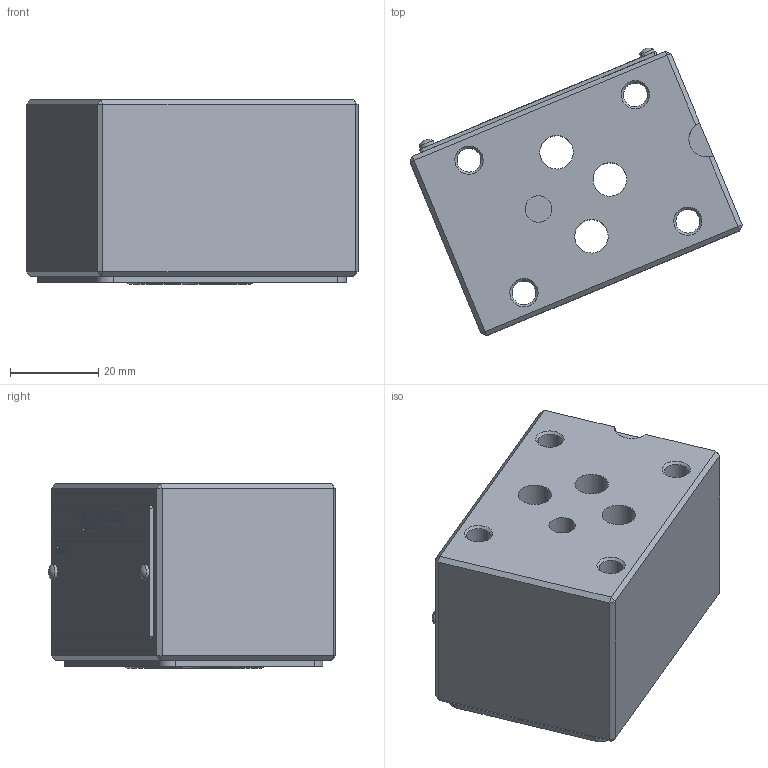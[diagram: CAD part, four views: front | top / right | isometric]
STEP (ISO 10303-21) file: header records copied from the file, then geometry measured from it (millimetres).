
FILE_DESCRIPTION(/* description */ (''),/* implementation_level */ '2;1');
FILE_NAME(/* name */ 'Z1S6D叠加式单向阀.prt.stp',/* time_stamp */ '2022-03-30T19:24:23+08:00',/* author */ (''),/* organization */ (''),/* preprocessor_version */ 'ST-DEVELOPER v16.7',/* originating_system */ 'SIEMENS PLM Software NX 12.0',/* authorisation */ '');
FILE_SCHEMA (('AUTOMOTIVE_DESIGN { 1 0 10303 214 3 1 1 1 }'));
Length unit declared in the file: millimetre
Products named in the file (1): Z1S6D叠加式单向阀
Bounding box: 75.21 x 65.16 x 41.78 mm (x, y, z)
Volume: 108070.6 mm3; surface area: 29112 mm2
Topology: 10 solids, 10 shells, 1052 faces, 2966 edges, 1964 vertices
Faces by surface type: plane 919, extrusion 77, cylinder 39, cone 11, torus 4, sphere 2
Full cylindrical faces by diameter (mm): 1.8 x4, 2 x2, 2.5 x2, 3.4 x2, 5.4 x4, 5.5 x4, 6 x1, 7.6 x3, 10 x1, 12 x1, 12.2 x4, 14 x2
Entity records: 40140 total; most frequent: CARTESIAN_POINT 6615, ORIENTED_EDGE 5818, DIRECTION 4872, EDGE_CURVE 2909, VECTOR 2744, LINE 2667, VERTEX_POINT 1960, EDGE_LOOP 1163
